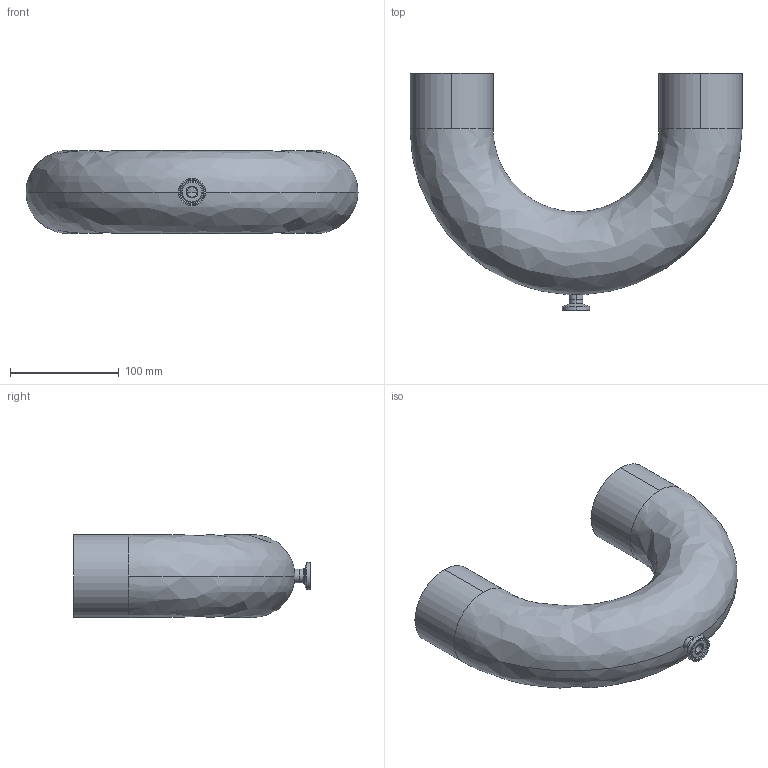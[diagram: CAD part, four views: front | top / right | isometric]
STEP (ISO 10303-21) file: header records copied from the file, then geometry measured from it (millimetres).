
FILE_DESCRIPTION (( 'STEP AP214' ), '1' );
FILE_NAME ('TE2UBWWC6L3.0x.5-...STEP', '2016-05-25T05:22:10', ( 'eran' ), ( '' ), 'SwSTEP 2.0', 'SolidWorks 2016', '' );
FILE_SCHEMA (( 'AUTOMOTIVE_DESIGN' ));
Length unit declared in the file: millimetre
Products named in the file (1): TE2UBWWC6L3.0x.5-..
Bounding box: 304.8 x 217.5 x 76.2 mm (x, y, z)
Volume: 180062.3 mm3; surface area: 218513.3 mm2
Topology: 2 solids, 2 shells, 42 faces, 106 edges, 68 vertices
Faces by surface type: cylinder 20, bspline 12, plane 6, cone 4
Entity records: 1619 total; most frequent: CARTESIAN_POINT 561, DIRECTION 226, ORIENTED_EDGE 212, EDGE_CURVE 106, AXIS2_PLACEMENT_3D 101, CIRCLE 70, VERTEX_POINT 68, EDGE_LOOP 48
